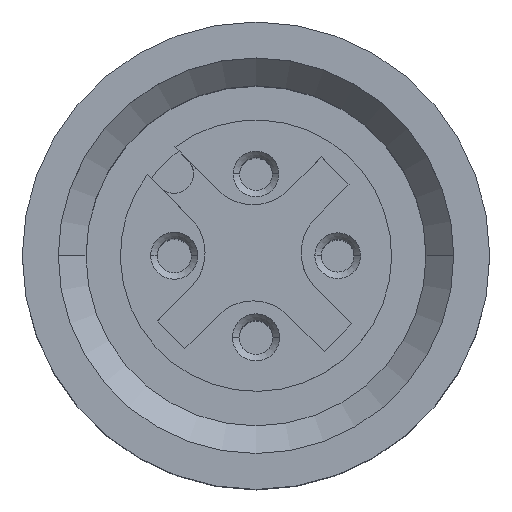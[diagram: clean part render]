
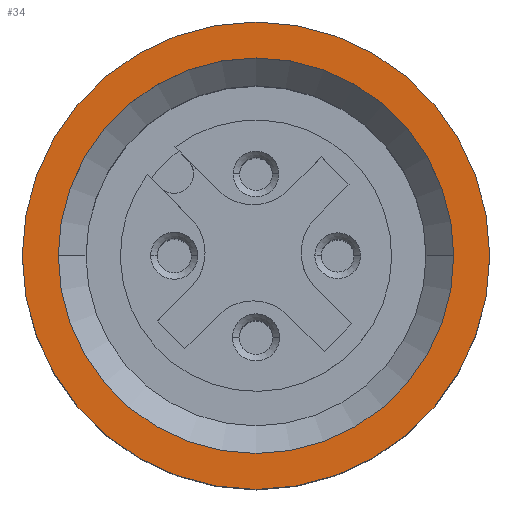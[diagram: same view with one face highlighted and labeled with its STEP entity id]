
A CAD part, top view. The second image highlights one B-rep face of the part: STEP entity #34.
In plain terms, the highlighted planar face has unit normal (0, 0, 1).
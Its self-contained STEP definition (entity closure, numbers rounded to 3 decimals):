
#34 = ADVANCED_FACE ( 'NONE', ( #1206, #781 ), #819, .F. ) ;
#63 = ORIENTED_EDGE ( 'NONE', *, *, #307, .F. ) ;
#88 = CARTESIAN_POINT ( 'NONE',  ( 6.05, 0., 10.5 ) ) ;
#94 = EDGE_CURVE ( 'NONE', #162, #192, #456, .T. ) ;
#117 = DIRECTION ( 'NONE',  ( -1., 0., 0. ) ) ;
#162 = VERTEX_POINT ( 'NONE', #88 ) ;
#192 = VERTEX_POINT ( 'NONE', #2198 ) ;
#307 = EDGE_CURVE ( 'NONE', #2228, #328, #1751, .T. ) ;
#328 = VERTEX_POINT ( 'NONE', #696 ) ;
#456 = CIRCLE ( 'NONE', #795, 6.05 ) ;
#612 = EDGE_CURVE ( 'NONE', #192, #162, #924, .T. ) ;
#696 = CARTESIAN_POINT ( 'NONE',  ( 7.15, 0., 10.5 ) ) ;
#702 = EDGE_LOOP ( 'NONE', ( #1416, #730 ) ) ;
#730 = ORIENTED_EDGE ( 'NONE', *, *, #94, .T. ) ;
#781 = FACE_BOUND ( 'NONE', #702, .T. ) ;
#795 = AXIS2_PLACEMENT_3D ( 'NONE', #810, #2144, #1946 ) ;
#810 = CARTESIAN_POINT ( 'NONE',  ( 0., 0., 10.5 ) ) ;
#819 = PLANE ( 'NONE',  #985 ) ;
#850 = DIRECTION ( 'NONE',  ( -1., 0., 0. ) ) ;
#861 = DIRECTION ( 'NONE',  ( 0., 0., -1. ) ) ;
#924 = CIRCLE ( 'NONE', #2351, 6.05 ) ;
#933 = CARTESIAN_POINT ( 'NONE',  ( -7.15, 0., 10.5 ) ) ;
#969 = DIRECTION ( 'NONE',  ( -1., 0., 0. ) ) ;
#985 = AXIS2_PLACEMENT_3D ( 'NONE', #1197, #2168, #2353 ) ;
#987 = EDGE_CURVE ( 'NONE', #328, #2228, #2063, .T. ) ;
#1197 = CARTESIAN_POINT ( 'NONE',  ( 0., 0., 10.5 ) ) ;
#1206 = FACE_OUTER_BOUND ( 'NONE', #1762, .T. ) ;
#1416 = ORIENTED_EDGE ( 'NONE', *, *, #612, .T. ) ;
#1468 = DIRECTION ( 'NONE',  ( 0., 0., -1. ) ) ;
#1567 = DIRECTION ( 'NONE',  ( 0., 0., -1. ) ) ;
#1738 = AXIS2_PLACEMENT_3D ( 'NONE', #2260, #861, #850 ) ;
#1751 = CIRCLE ( 'NONE', #2313, 7.15 ) ;
#1762 = EDGE_LOOP ( 'NONE', ( #63, #1852 ) ) ;
#1852 = ORIENTED_EDGE ( 'NONE', *, *, #987, .F. ) ;
#1946 = DIRECTION ( 'NONE',  ( -1., 0., 0. ) ) ;
#2063 = CIRCLE ( 'NONE', #1738, 7.15 ) ;
#2106 = CARTESIAN_POINT ( 'NONE',  ( 0., 0., 10.5 ) ) ;
#2144 = DIRECTION ( 'NONE',  ( 0., 0., -1. ) ) ;
#2168 = DIRECTION ( 'NONE',  ( 0., 0., -1. ) ) ;
#2198 = CARTESIAN_POINT ( 'NONE',  ( -6.05, 0., 10.5 ) ) ;
#2228 = VERTEX_POINT ( 'NONE', #933 ) ;
#2260 = CARTESIAN_POINT ( 'NONE',  ( 0., 0., 10.5 ) ) ;
#2313 = AXIS2_PLACEMENT_3D ( 'NONE', #2440, #1468, #117 ) ;
#2351 = AXIS2_PLACEMENT_3D ( 'NONE', #2106, #1567, #969 ) ;
#2353 = DIRECTION ( 'NONE',  ( -1., 0., 0. ) ) ;
#2440 = CARTESIAN_POINT ( 'NONE',  ( 0., 0., 10.5 ) ) ;
